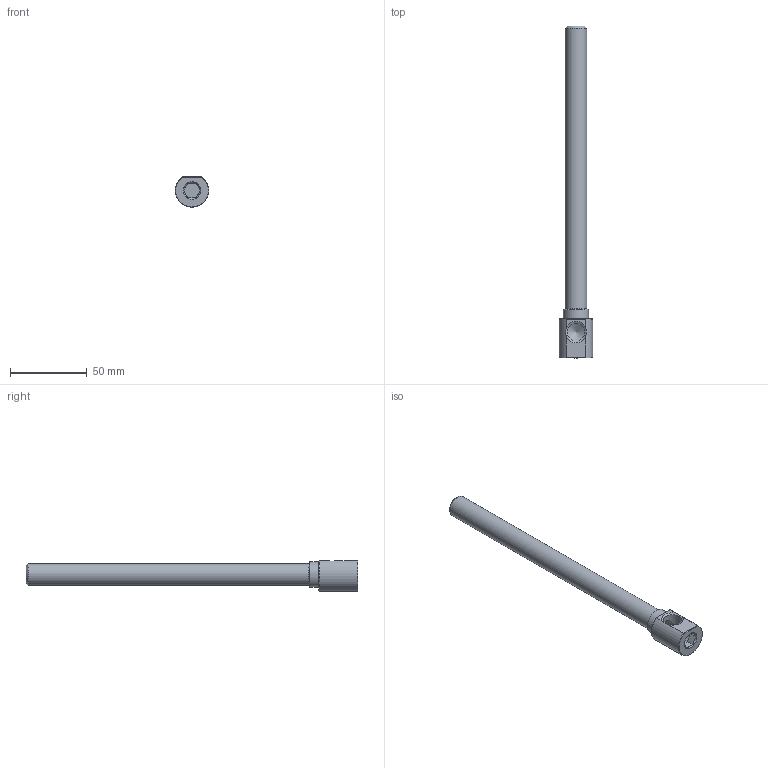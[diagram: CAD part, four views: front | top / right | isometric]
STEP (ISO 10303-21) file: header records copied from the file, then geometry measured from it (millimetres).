
FILE_DESCRIPTION(/* description */ (''),/* implementation_level */ '2;1');
FILE_NAME(/* name */ 'C:/Users/drich/Desktop/EKL14 X 8.5 v2.step',/* time_stamp */ '2019-11-18T14:33:21-06:00',/* author */ (''),/* organization */ (''),/* preprocessor_version */ 'ST-DEVELOPER v18',/* originating_system */ 'Autodesk Translation Framework v8.12.0.6',/* authorisation */ '');
FILE_SCHEMA (('AUTOMOTIVE_DESIGN { 1 0 10303 214 3 1 1 }'));
Length unit declared in the file: inch
Products named in the file (2): EKL14 X 8.5; EKL14 X 8-1/2
Assembly tree (1 placements, depth 2):
  EKL14 X 8.5
    EKL14 X 8-1/2
Bounding box: 21.77 x 215.9 x 19.77 mm (x, y, z)
Volume: 25318.9 mm3; surface area: 16901 mm2
Topology: 1 solids, 1 shells, 32 faces, 78 edges, 51 vertices
Faces by surface type: plane 16, cone 10, cylinder 6
Full cylindrical faces by diameter (mm): 8.712 x1, 11.176 x1, 11.668 x1, 14.143 x1, 16.51 x1
Entity records: 1047 total; most frequent: CARTESIAN_POINT 242, DIRECTION 159, ORIENTED_EDGE 154, EDGE_CURVE 77, AXIS2_PLACEMENT_3D 63, VERTEX_POINT 51, EDGE_LOOP 38, LINE 33
